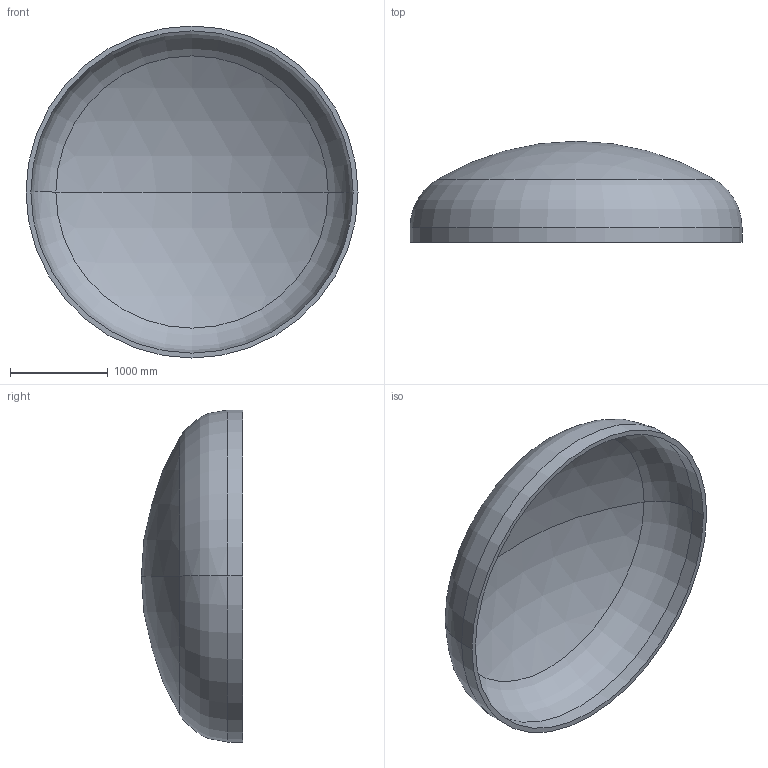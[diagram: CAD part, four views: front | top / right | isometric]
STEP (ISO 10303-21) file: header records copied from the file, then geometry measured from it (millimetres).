
FILE_DESCRIPTION (( 'STEP AP203' ), '1' );
FILE_NAME ('DIN 28013 Korbbogenform_-_Boden DIN 28013 - 3400 x 150 - I - s=50.step', '2016-07-01T19:35:39', ( '' ), ( '' ), 'SwSTEP 2.0', 'SolidWorks 2013', '' );
FILE_SCHEMA (( 'CONFIG_CONTROL_DESIGN' ));
Length unit declared in the file: millimetre
Products named in the file (1): DIN 28013 Korbbogenform_-_Boden DIN 28013 - 3400 x 150 - I - s=50
Bounding box: 3400 x 1035.22 x 3400 mm (x, y, z)
Volume: 695891887.6 mm3; surface area: 28367118.7 mm2
Topology: 1 solids, 1 shells, 13 faces, 24 edges, 14 vertices
Faces by surface type: torus 4, cylinder 4, sphere 4, plane 1
Entity records: 407 total; most frequent: DIRECTION 72, CARTESIAN_POINT 52, ORIENTED_EDGE 48, AXIS2_PLACEMENT_3D 34, EDGE_CURVE 24, CIRCLE 20, EDGE_LOOP 14, VERTEX_POINT 14
